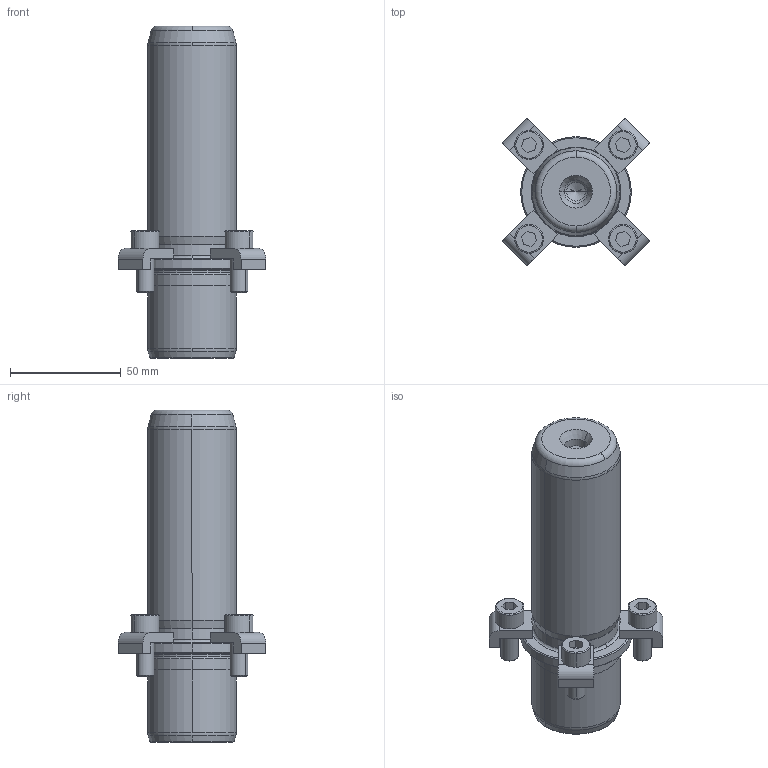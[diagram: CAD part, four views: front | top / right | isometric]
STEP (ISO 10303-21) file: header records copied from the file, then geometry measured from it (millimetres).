
FILE_DESCRIPTION((''),'2;1');
FILE_NAME('P21_040_110.stp','2008-12-23T11:24:01',(''),(''),'Mechanical Desktop 2009','Mechanical Desktop 2009',', , ');
FILE_SCHEMA(('CONFIG_CONTROL_DESIGN'));
Length unit declared in the file: millimetre
Products named in the file (2): Product; blmdl1
Assembly tree (1 placements, depth 2):
  Product
    blmdl1
Bounding box: 66.82 x 66.82 x 150 mm (x, y, z)
Volume: 198628.1 mm3; surface area: 33116.8 mm2
Topology: 9 solids, 9 shells, 203 faces, 501 edges, 325 vertices
Faces by surface type: plane 81, cylinder 56, cone 34, torus 16, bspline 16
Entity records: 6819 total; most frequent: CARTESIAN_POINT 1731, DIRECTION 1126, ORIENTED_EDGE 994, EDGE_CURVE 497, AXIS2_PLACEMENT_3D 440, VERTEX_POINT 325, CIRCLE 251, VECTOR 246
